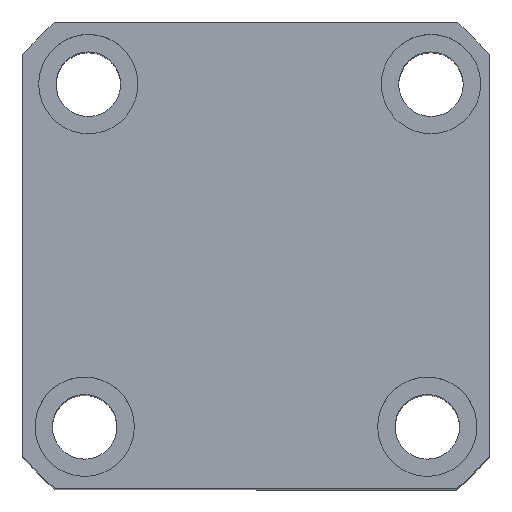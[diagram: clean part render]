
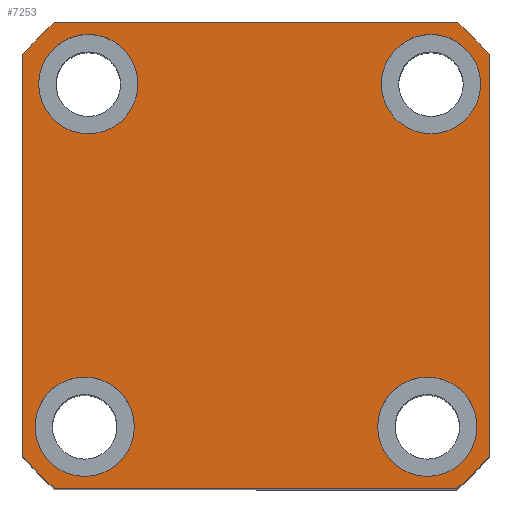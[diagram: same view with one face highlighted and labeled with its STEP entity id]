
A CAD part, top view. The second image highlights one B-rep face of the part: STEP entity #7253.
In plain terms, the highlighted planar face has unit normal (0, 0, 1) as drawn and (0, 0, -1) by its records, which use the part's own axes.
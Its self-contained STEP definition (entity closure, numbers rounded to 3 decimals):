
#199 = EDGE_CURVE ( 'NONE', #13758, #15971, #9514, .T. ) ;
#436 = ORIENTED_EDGE ( 'NONE', *, *, #15127, .F. ) ;
#505 = ORIENTED_EDGE ( 'NONE', *, *, #2790, .F. ) ;
#552 = CARTESIAN_POINT ( 'NONE',  ( -33.77, -34.5, 0. ) ) ;
#568 = DIRECTION ( 'NONE',  ( 0., -1., 0. ) ) ;
#583 = ORIENTED_EDGE ( 'NONE', *, *, #1278, .F. ) ;
#633 = ORIENTED_EDGE ( 'NONE', *, *, #3195, .F. ) ;
#665 = CIRCLE ( 'NONE', #18161, 62. ) ;
#820 = AXIS2_PLACEMENT_3D ( 'NONE', #17240, #6793, #18961 ) ;
#944 = CARTESIAN_POINT ( 'NONE',  ( 34.5, 34.5, 0. ) ) ;
#1189 = LINE ( 'NONE', #9198, #14521 ) ;
#1278 = EDGE_CURVE ( 'NONE', #3004, #5672, #21970, .T. ) ;
#1292 = EDGE_LOOP ( 'NONE', ( #8018, #7809 ) ) ;
#1294 = DIRECTION ( 'NONE',  ( 1., 0., 0. ) ) ;
#1339 = DIRECTION ( 'NONE',  ( -1., 0., 0. ) ) ;
#1568 = CARTESIAN_POINT ( 'NONE',  ( 35.23, -34.5, 0. ) ) ;
#1796 = DIRECTION ( 'NONE',  ( 0., 0., 1. ) ) ;
#1828 = CARTESIAN_POINT ( 'NONE',  ( 45.23, -34.5, 0. ) ) ;
#2311 = DIRECTION ( 'NONE',  ( -1., 0., 0. ) ) ;
#2538 = FACE_BOUND ( 'NONE', #1292, .T. ) ;
#2579 = AXIS2_PLACEMENT_3D ( 'NONE', #552, #12710, #2311 ) ;
#2601 = VECTOR ( 'NONE', #6948, 1000. ) ;
#2688 = DIRECTION ( 'NONE',  ( -1., 0., 0. ) ) ;
#2706 = VERTEX_POINT ( 'NONE', #8522 ) ;
#2790 = EDGE_CURVE ( 'NONE', #16358, #5606, #12936, .T. ) ;
#3004 = VERTEX_POINT ( 'NONE', #10723 ) ;
#3195 = EDGE_CURVE ( 'NONE', #5737, #2706, #9650, .T. ) ;
#3240 = AXIS2_PLACEMENT_3D ( 'NONE', #15959, #16039, #21383 ) ;
#3274 = VERTEX_POINT ( 'NONE', #20285 ) ;
#3310 = DIRECTION ( 'NONE',  ( -1., 0., 0. ) ) ;
#3502 = CARTESIAN_POINT ( 'NONE',  ( -47., -40.435, 0. ) ) ;
#3520 = VECTOR ( 'NONE', #7063, 1000. ) ;
#3614 = ORIENTED_EDGE ( 'NONE', *, *, #10854, .F. ) ;
#3710 = AXIS2_PLACEMENT_3D ( 'NONE', #1568, #13711, #3310 ) ;
#3841 = CARTESIAN_POINT ( 'NONE',  ( 0., 0., 0. ) ) ;
#4081 = EDGE_LOOP ( 'NONE', ( #12347, #505, #18361, #21814, #6387, #16753, #12747, #583 ) ) ;
#4212 = EDGE_CURVE ( 'NONE', #5606, #3004, #665, .T. ) ;
#4295 = ORIENTED_EDGE ( 'NONE', *, *, #21028, .F. ) ;
#4341 = CARTESIAN_POINT ( 'NONE',  ( -47., -47., 0. ) ) ;
#4354 = DIRECTION ( 'NONE',  ( 0., 0., 1. ) ) ;
#4431 = VECTOR ( 'NONE', #11150, 1000. ) ;
#4761 = CIRCLE ( 'NONE', #21020, 10. ) ;
#5182 = EDGE_CURVE ( 'NONE', #17843, #9537, #19678, .T. ) ;
#5211 = CARTESIAN_POINT ( 'NONE',  ( 47., 47., 0. ) ) ;
#5578 = DIRECTION ( 'NONE',  ( 1., 0., 0. ) ) ;
#5606 = VERTEX_POINT ( 'NONE', #18864 ) ;
#5672 = VERTEX_POINT ( 'NONE', #11910 ) ;
#5737 = VERTEX_POINT ( 'NONE', #12374 ) ;
#6045 = CIRCLE ( 'NONE', #6693, 10. ) ;
#6387 = ORIENTED_EDGE ( 'NONE', *, *, #8680, .F. ) ;
#6391 = CARTESIAN_POINT ( 'NONE',  ( -23.77, -34.5, 0. ) ) ;
#6510 = DIRECTION ( 'NONE',  ( 0., 0., -1. ) ) ;
#6590 = CIRCLE ( 'NONE', #18639, 62. ) ;
#6693 = AXIS2_PLACEMENT_3D ( 'NONE', #19511, #9078, #21239 ) ;
#6793 = DIRECTION ( 'NONE',  ( 0., 0., 1. ) ) ;
#6948 = DIRECTION ( 'NONE',  ( 0., 1., 0. ) ) ;
#7063 = DIRECTION ( 'NONE',  ( -1., 0., 0. ) ) ;
#7133 = DIRECTION ( 'NONE',  ( 0., 0., -1. ) ) ;
#7139 = FACE_BOUND ( 'NONE', #21438, .T. ) ;
#7253 = ADVANCED_FACE ( 'NONE', ( #2538, #16440, #7139, #20454, #15855 ), #22065, .F. ) ;
#7485 = AXIS2_PLACEMENT_3D ( 'NONE', #14767, #4354, #16528 ) ;
#7538 = AXIS2_PLACEMENT_3D ( 'NONE', #944, #13107, #2688 ) ;
#7809 = ORIENTED_EDGE ( 'NONE', *, *, #199, .F. ) ;
#8018 = ORIENTED_EDGE ( 'NONE', *, *, #13052, .F. ) ;
#8522 = CARTESIAN_POINT ( 'NONE',  ( -44.5, 34.5, 0. ) ) ;
#8667 = CARTESIAN_POINT ( 'NONE',  ( -40.435, -47., 0. ) ) ;
#8680 = EDGE_CURVE ( 'NONE', #20538, #15420, #6590, .T. ) ;
#9078 = DIRECTION ( 'NONE',  ( 0., 0., -1. ) ) ;
#9148 = VERTEX_POINT ( 'NONE', #20439 ) ;
#9198 = CARTESIAN_POINT ( 'NONE',  ( -47., 47., 0. ) ) ;
#9514 = CIRCLE ( 'NONE', #3240, 10. ) ;
#9533 = CIRCLE ( 'NONE', #7538, 10. ) ;
#9537 = VERTEX_POINT ( 'NONE', #6391 ) ;
#9650 = CIRCLE ( 'NONE', #14336, 10. ) ;
#10702 = CIRCLE ( 'NONE', #7485, 62. ) ;
#10723 = CARTESIAN_POINT ( 'NONE',  ( 40.435, 47., 0. ) ) ;
#10854 = EDGE_CURVE ( 'NONE', #21608, #16236, #9533, .T. ) ;
#11150 = DIRECTION ( 'NONE',  ( 1., 0., 0. ) ) ;
#11692 = DIRECTION ( 'NONE',  ( 0., 0., 1. ) ) ;
#11736 = DIRECTION ( 'NONE',  ( 0., 0., -1. ) ) ;
#11910 = CARTESIAN_POINT ( 'NONE',  ( -40.435, 47., 0. ) ) ;
#12185 = CARTESIAN_POINT ( 'NONE',  ( 0., 0., 0. ) ) ;
#12324 = CIRCLE ( 'NONE', #3710, 10. ) ;
#12347 = ORIENTED_EDGE ( 'NONE', *, *, #4212, .F. ) ;
#12374 = CARTESIAN_POINT ( 'NONE',  ( -24.5, 34.5, 0. ) ) ;
#12710 = DIRECTION ( 'NONE',  ( 0., 0., -1. ) ) ;
#12747 = ORIENTED_EDGE ( 'NONE', *, *, #15291, .F. ) ;
#12936 = LINE ( 'NONE', #5211, #2601 ) ;
#12944 = EDGE_CURVE ( 'NONE', #16236, #21608, #21566, .T. ) ;
#13052 = EDGE_CURVE ( 'NONE', #15971, #13758, #12324, .T. ) ;
#13107 = DIRECTION ( 'NONE',  ( 0., 0., -1. ) ) ;
#13435 = CIRCLE ( 'NONE', #820, 62. ) ;
#13437 = CARTESIAN_POINT ( 'NONE',  ( -43.77, -34.5, 0. ) ) ;
#13711 = DIRECTION ( 'NONE',  ( 0., 0., -1. ) ) ;
#13758 = VERTEX_POINT ( 'NONE', #1828 ) ;
#13943 = DIRECTION ( 'NONE',  ( 1., 0., 0. ) ) ;
#14231 = EDGE_CURVE ( 'NONE', #3274, #16358, #10702, .T. ) ;
#14336 = AXIS2_PLACEMENT_3D ( 'NONE', #17569, #7133, #19293 ) ;
#14521 = VECTOR ( 'NONE', #568, 1000. ) ;
#14767 = CARTESIAN_POINT ( 'NONE',  ( 0., 0., 0. ) ) ;
#15127 = EDGE_CURVE ( 'NONE', #9537, #17843, #4761, .T. ) ;
#15179 = CARTESIAN_POINT ( 'NONE',  ( 47., -40.435, 0. ) ) ;
#15291 = EDGE_CURVE ( 'NONE', #5672, #9148, #13435, .T. ) ;
#15420 = VERTEX_POINT ( 'NONE', #8667 ) ;
#15855 = FACE_OUTER_BOUND ( 'NONE', #4081, .T. ) ;
#15959 = CARTESIAN_POINT ( 'NONE',  ( 35.23, -34.5, 0. ) ) ;
#15971 = VERTEX_POINT ( 'NONE', #20079 ) ;
#16000 = DIRECTION ( 'NONE',  ( 0., 0., 1. ) ) ;
#16039 = DIRECTION ( 'NONE',  ( 0., 0., -1. ) ) ;
#16236 = VERTEX_POINT ( 'NONE', #17636 ) ;
#16358 = VERTEX_POINT ( 'NONE', #15179 ) ;
#16440 = FACE_BOUND ( 'NONE', #20355, .T. ) ;
#16528 = DIRECTION ( 'NONE',  ( 1., 0., 0. ) ) ;
#16648 = EDGE_CURVE ( 'NONE', #9148, #20538, #1189, .T. ) ;
#16753 = ORIENTED_EDGE ( 'NONE', *, *, #16648, .F. ) ;
#16955 = CARTESIAN_POINT ( 'NONE',  ( -33.77, -34.5, 0. ) ) ;
#17240 = CARTESIAN_POINT ( 'NONE',  ( 0., 0., 0. ) ) ;
#17569 = CARTESIAN_POINT ( 'NONE',  ( -34.5, 34.5, 0. ) ) ;
#17636 = CARTESIAN_POINT ( 'NONE',  ( 44.5, 34.5, 0. ) ) ;
#17843 = VERTEX_POINT ( 'NONE', #13437 ) ;
#17958 = EDGE_LOOP ( 'NONE', ( #3614, #20347 ) ) ;
#18161 = AXIS2_PLACEMENT_3D ( 'NONE', #12185, #1796, #13943 ) ;
#18298 = LINE ( 'NONE', #4341, #4431 ) ;
#18361 = ORIENTED_EDGE ( 'NONE', *, *, #14231, .F. ) ;
#18436 = ORIENTED_EDGE ( 'NONE', *, *, #5182, .F. ) ;
#18639 = AXIS2_PLACEMENT_3D ( 'NONE', #3841, #16000, #5578 ) ;
#18688 = DIRECTION ( 'NONE',  ( -1., 0., 0. ) ) ;
#18864 = CARTESIAN_POINT ( 'NONE',  ( 47., 40.435, 0. ) ) ;
#18961 = DIRECTION ( 'NONE',  ( 1., 0., 0. ) ) ;
#19086 = CARTESIAN_POINT ( 'NONE',  ( -47., 47., 0. ) ) ;
#19283 = AXIS2_PLACEMENT_3D ( 'NONE', #22107, #11736, #1339 ) ;
#19293 = DIRECTION ( 'NONE',  ( -1., 0., 0. ) ) ;
#19511 = CARTESIAN_POINT ( 'NONE',  ( -34.5, 34.5, 0. ) ) ;
#19678 = CIRCLE ( 'NONE', #2579, 10. ) ;
#20079 = CARTESIAN_POINT ( 'NONE',  ( 25.23, -34.5, 0. ) ) ;
#20284 = CARTESIAN_POINT ( 'NONE',  ( 0., 0., 0. ) ) ;
#20285 = CARTESIAN_POINT ( 'NONE',  ( 40.435, -47., 0. ) ) ;
#20347 = ORIENTED_EDGE ( 'NONE', *, *, #12944, .F. ) ;
#20355 = EDGE_LOOP ( 'NONE', ( #18436, #436 ) ) ;
#20439 = CARTESIAN_POINT ( 'NONE',  ( -47., 40.435, 0. ) ) ;
#20454 = FACE_BOUND ( 'NONE', #17958, .T. ) ;
#20538 = VERTEX_POINT ( 'NONE', #3502 ) ;
#21020 = AXIS2_PLACEMENT_3D ( 'NONE', #16955, #6510, #18688 ) ;
#21028 = EDGE_CURVE ( 'NONE', #2706, #5737, #6045, .T. ) ;
#21239 = DIRECTION ( 'NONE',  ( -1., 0., 0. ) ) ;
#21383 = DIRECTION ( 'NONE',  ( -1., 0., 0. ) ) ;
#21394 = EDGE_CURVE ( 'NONE', #15420, #3274, #18298, .T. ) ;
#21438 = EDGE_LOOP ( 'NONE', ( #4295, #633 ) ) ;
#21566 = CIRCLE ( 'NONE', #19283, 10. ) ;
#21608 = VERTEX_POINT ( 'NONE', #21894 ) ;
#21814 = ORIENTED_EDGE ( 'NONE', *, *, #21394, .F. ) ;
#21894 = CARTESIAN_POINT ( 'NONE',  ( 24.5, 34.5, 0. ) ) ;
#21970 = LINE ( 'NONE', #19086, #3520 ) ;
#22065 = PLANE ( 'NONE',  #22172 ) ;
#22107 = CARTESIAN_POINT ( 'NONE',  ( 34.5, 34.5, 0. ) ) ;
#22172 = AXIS2_PLACEMENT_3D ( 'NONE', #20284, #11692, #1294 ) ;
